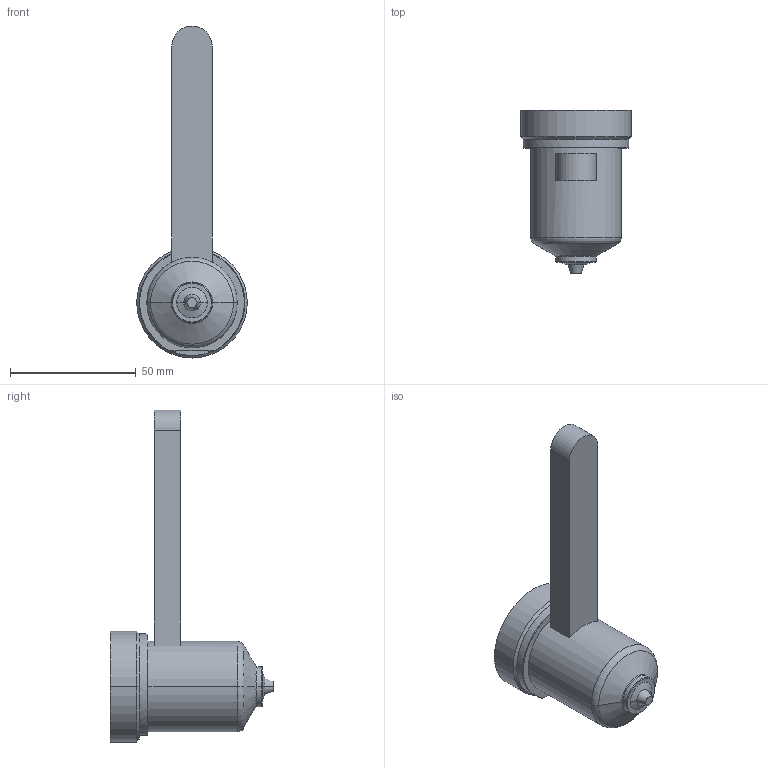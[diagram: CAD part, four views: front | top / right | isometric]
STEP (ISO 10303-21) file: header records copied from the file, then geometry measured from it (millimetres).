
FILE_DESCRIPTION((''),'2;1');
FILE_NAME('EO12_VG-BL_STD_050_COT','2024-02-19T13:12:40',('sundharh'),(''),'CREO PARAMETRIC BY PTC INC, 2023154','CREO PARAMETRIC BY PTC INC, 2023154','');
FILE_SCHEMA(('CONFIG_CONTROL_DESIGN'));
Length unit declared in the file: millimetre
Products named in the file (1): EO12_VG-BL_STD_050_COT
Bounding box: 44 x 65 x 132 mm (x, y, z)
Volume: 79166.7 mm3; surface area: 14258.6 mm2
Topology: 1 solids, 1 shells, 38 faces, 81 edges, 48 vertices
Faces by surface type: cylinder 11, plane 10, torus 9, cone 6, sphere 2
Entity records: 1135 total; most frequent: CARTESIAN_POINT 247, DIRECTION 199, ORIENTED_EDGE 162, AXIS2_PLACEMENT_3D 86, EDGE_CURVE 81, VERTEX_POINT 48, CIRCLE 48, EDGE_LOOP 41
